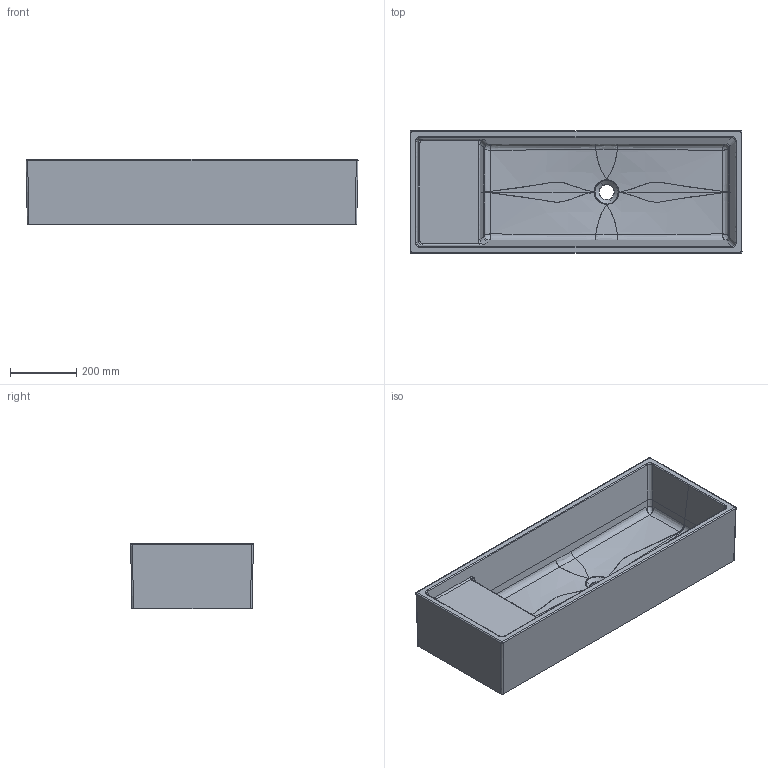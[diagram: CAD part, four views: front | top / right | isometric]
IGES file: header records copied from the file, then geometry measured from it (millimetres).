
Start section: START RECORD GO HERE.
Global section: file name: 7505_3D_IGS.igs; native system: DASSAULT SYSTEMES CATIA V5 R19 - www.3ds.com; preprocessor: CATIA Version 5 Release 19 SP 5 ; author: Luca; organization: DESKTOP-V7SON24; date: 20220503.084101; units: millimetre
Bounding box: 999.87 x 369.87 x 196 mm (x, y, z)
Surface area: 1734716.4 mm2 (no closed solid volume)
Topology: 0 solids, 0 shells, 176 faces, 854 edges, 852 vertices
Faces by surface type: bspline 127, revolution 28, plane 21
